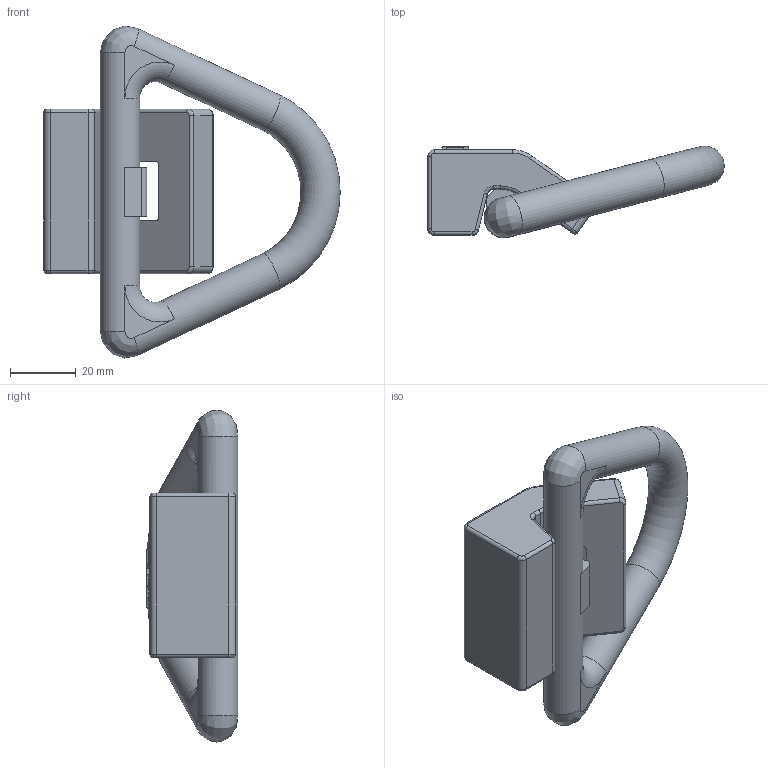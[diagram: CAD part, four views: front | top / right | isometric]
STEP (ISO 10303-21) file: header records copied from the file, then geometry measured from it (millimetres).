
FILE_DESCRIPTION(/* description */ (''),/* implementation_level */ '2;1');
FILE_NAME(/* name */ 'O:\ils2000\Natallia\INVENTOR\AutoCAD stp\NAVACQS\LP-06.stp',/* time_stamp */ '2016-08-12T11:51:58+02:00',/* author */ ('natallia'),/* organization */ (''),/* preprocessor_version */ 'ST-DEVELOPER v16.5',/* originating_system */ 'Autodesk Inventor 2017',/* authorisation */ '');
FILE_SCHEMA (('AUTOMOTIVE_DESIGN { 1 0 10303 214 3 1 1 }'));
Length unit declared in the file: millimetre
Products named in the file (3): LP-06; LP-06 strap; LP-06 RING
Assembly tree (2 placements, depth 2):
  LP-06
    LP-06 strap
    LP-06 RING
Bounding box: 90.12 x 27.78 x 100.96 mm (x, y, z)
Volume: 68594.9 mm3; surface area: 19110.6 mm2
Topology: 2 solids, 2 shells, 160 faces, 403 edges, 246 vertices
Faces by surface type: cylinder 51, plane 50, bspline 44, torus 15
Full cylindrical faces by diameter (mm): 12 x3
Entity records: 5760 total; most frequent: CARTESIAN_POINT 2002, ORIENTED_EDGE 792, DIRECTION 732, EDGE_CURVE 396, AXIS2_PLACEMENT_3D 270, VERTEX_POINT 244, LINE 192, VECTOR 192
